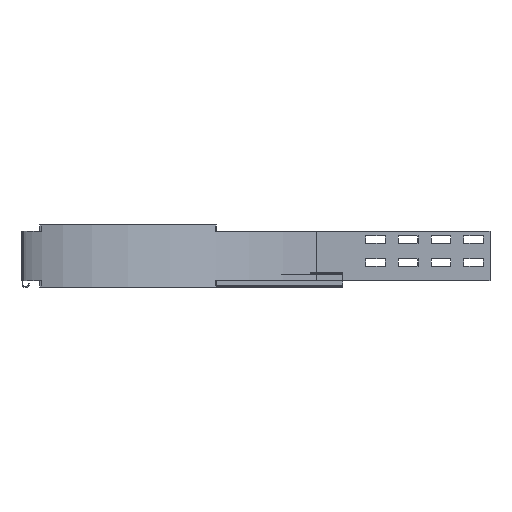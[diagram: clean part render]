
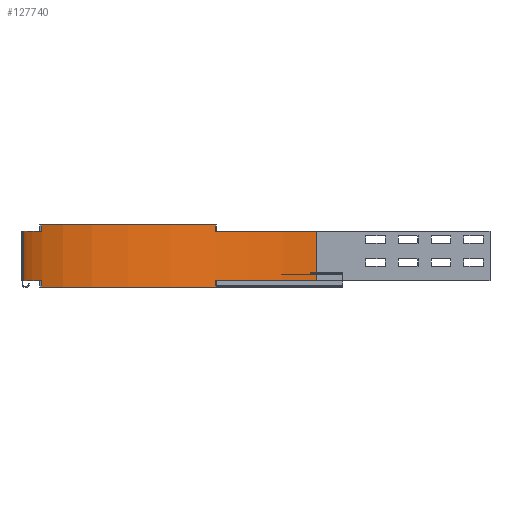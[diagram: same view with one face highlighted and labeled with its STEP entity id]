
A CAD part, left-side view. The second image highlights one B-rep face of the part: STEP entity #127740.
In plain terms, the highlighted cylindrical face has radius 447 mm (diameter 894 mm), a partial arc.
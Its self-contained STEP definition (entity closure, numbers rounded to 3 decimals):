
#105170=CARTESIAN_POINT('',(420.043,-297.117,-50.));
#105180=VERTEX_POINT('',#105170);
#105210=CARTESIAN_POINT('',(0.,-450.,-50.));
#105220=DIRECTION('',(0.,0.,1.));
#105230=DIRECTION('',(1.,0.,0.));
#105240=AXIS2_PLACEMENT_3D('',#105210,#105220,#105230);
#105250=CIRCLE('',#105240,447.);
#105260=CARTESIAN_POINT('',(152.883,-29.957,-50.));
#105270=VERTEX_POINT('',#105260);
#105280=EDGE_CURVE('',#105180,#105270,#105250,.T.);
#107250=CARTESIAN_POINT('',(447.,-450.,-60.));
#107260=VERTEX_POINT('',#107250);
#107310=CARTESIAN_POINT('',(0.,-450.,-60.));
#107320=DIRECTION('',(0.,0.,-1.));
#107330=DIRECTION('',(1.,0.,0.));
#107340=AXIS2_PLACEMENT_3D('',#107310,#107320,#107330);
#107350=CIRCLE('',#107340,447.);
#107360=CARTESIAN_POINT('',(420.043,-297.117,-60.));
#107370=VERTEX_POINT('',#107360);
#107380=EDGE_CURVE('',#107370,#107260,#107350,.T.);
#107790=CARTESIAN_POINT('',(0.,-450.,-145.));
#107800=DIRECTION('',(0.,0.,1.));
#107810=DIRECTION('',(1.,0.,0.));
#107820=AXIS2_PLACEMENT_3D('',#107790,#107800,#107810);
#107830=CIRCLE('',#107820,447.);
#107840=CARTESIAN_POINT('',(420.043,-297.117,-145.));
#107850=VERTEX_POINT('',#107840);
#107860=CARTESIAN_POINT('',(152.883,-29.957,-145.));
#107870=VERTEX_POINT('',#107860);
#107880=EDGE_CURVE('',#107850,#107870,#107830,.T.);
#108210=CARTESIAN_POINT('',(0.,-450.,-135.));
#108220=DIRECTION('',(0.,0.,1.));
#108230=DIRECTION('',(1.,0.,0.));
#108240=AXIS2_PLACEMENT_3D('',#108210,#108220,#108230);
#108250=CIRCLE('',#108240,447.);
#108260=CARTESIAN_POINT('',(152.883,-29.957,-135.));
#108270=VERTEX_POINT('',#108260);
#108280=CARTESIAN_POINT('',(0.,-3.,-135.));
#108290=VERTEX_POINT('',#108280);
#108300=EDGE_CURVE('',#108270,#108290,#108250,.T.);
#117560=CARTESIAN_POINT('',(0.,-3.,0.));
#117570=DIRECTION('',(0.,0.,-1.));
#117580=VECTOR('',#117570,1.);
#117590=LINE('',#117560,#117580);
#117600=CARTESIAN_POINT('',(0.,-3.,-60.));
#117610=VERTEX_POINT('',#117600);
#117620=EDGE_CURVE('',#117610,#108290,#117590,.T.);
#120550=CARTESIAN_POINT('',(447.,-450.,-135.));
#120560=VERTEX_POINT('',#120550);
#120590=CARTESIAN_POINT('',(447.,-450.,0.));
#120600=DIRECTION('',(0.,0.,1.));
#120610=VECTOR('',#120600,1.);
#120620=LINE('',#120590,#120610);
#120630=EDGE_CURVE('',#120560,#107260,#120620,.T.);
#125800=CARTESIAN_POINT('',(420.043,-297.117,-10.));
#125810=DIRECTION('',(0.,0.,1.));
#125820=VECTOR('',#125810,1.);
#125830=LINE('',#125800,#125820);
#125840=EDGE_CURVE('',#107370,#105180,#125830,.T.);
#125970=CARTESIAN_POINT('',(152.883,-29.957,-10.));
#125980=DIRECTION('',(0.,0.,1.));
#125990=VECTOR('',#125980,1.);
#126000=LINE('',#125970,#125990);
#126010=EDGE_CURVE('',#107870,#108270,#126000,.T.);
#126150=CARTESIAN_POINT('',(152.883,-29.957,-60.));
#126160=VERTEX_POINT('',#126150);
#126210=CARTESIAN_POINT('',(152.883,-29.957,-10.));
#126220=DIRECTION('',(0.,0.,1.));
#126230=VECTOR('',#126220,1.);
#126240=LINE('',#126210,#126230);
#126250=EDGE_CURVE('',#126160,#105270,#126240,.T.);
#126410=CARTESIAN_POINT('',(420.043,-297.117,-135.));
#126420=VERTEX_POINT('',#126410);
#126450=CARTESIAN_POINT('',(0.,-450.,-135.));
#126460=DIRECTION('',(0.,0.,1.));
#126470=DIRECTION('',(1.,0.,0.));
#126480=AXIS2_PLACEMENT_3D('',#126450,#126460,#126470);
#126490=CIRCLE('',#126480,447.);
#126500=EDGE_CURVE('',#120560,#126420,#126490,.T.);
#127440=CARTESIAN_POINT('',(0.,-450.,-10.));
#127450=DIRECTION('',(0.,0.,1.));
#127460=DIRECTION('',(1.,0.,0.));
#127470=AXIS2_PLACEMENT_3D('',#127440,#127450,#127460);
#127480=CYLINDRICAL_SURFACE('',#127470,447.);
#127490=ORIENTED_EDGE('',*,*,#108300,.F.);
#127500=ORIENTED_EDGE('',*,*,#117620,.T.);
#127510=CARTESIAN_POINT('',(0.,-450.,-60.));
#127520=DIRECTION('',(0.,0.,-1.));
#127530=DIRECTION('',(1.,0.,0.));
#127540=AXIS2_PLACEMENT_3D('',#127510,#127520,#127530);
#127550=CIRCLE('',#127540,447.);
#127560=EDGE_CURVE('',#117610,#126160,#127550,.T.);
#127570=ORIENTED_EDGE('',*,*,#127560,.F.);
#127580=ORIENTED_EDGE('',*,*,#126250,.F.);
#127590=ORIENTED_EDGE('',*,*,#105280,.T.);
#127600=ORIENTED_EDGE('',*,*,#125840,.T.);
#127610=ORIENTED_EDGE('',*,*,#107380,.F.);
#127620=ORIENTED_EDGE('',*,*,#120630,.T.);
#127630=ORIENTED_EDGE('',*,*,#126500,.F.);
#127640=CARTESIAN_POINT('',(420.043,-297.117,-10.));
#127650=DIRECTION('',(0.,0.,1.));
#127660=VECTOR('',#127650,1.);
#127670=LINE('',#127640,#127660);
#127680=EDGE_CURVE('',#107850,#126420,#127670,.T.);
#127690=ORIENTED_EDGE('',*,*,#127680,.T.);
#127700=ORIENTED_EDGE('',*,*,#107880,.F.);
#127710=ORIENTED_EDGE('',*,*,#126010,.F.);
#127720=EDGE_LOOP('',(#127710,#127700,#127690,#127630,#127620,#127610,
#127600,#127590,#127580,#127570,#127500,#127490));
#127730=FACE_OUTER_BOUND('',#127720,.T.);
#127740=ADVANCED_FACE('',(#127730),#127480,.F.);
